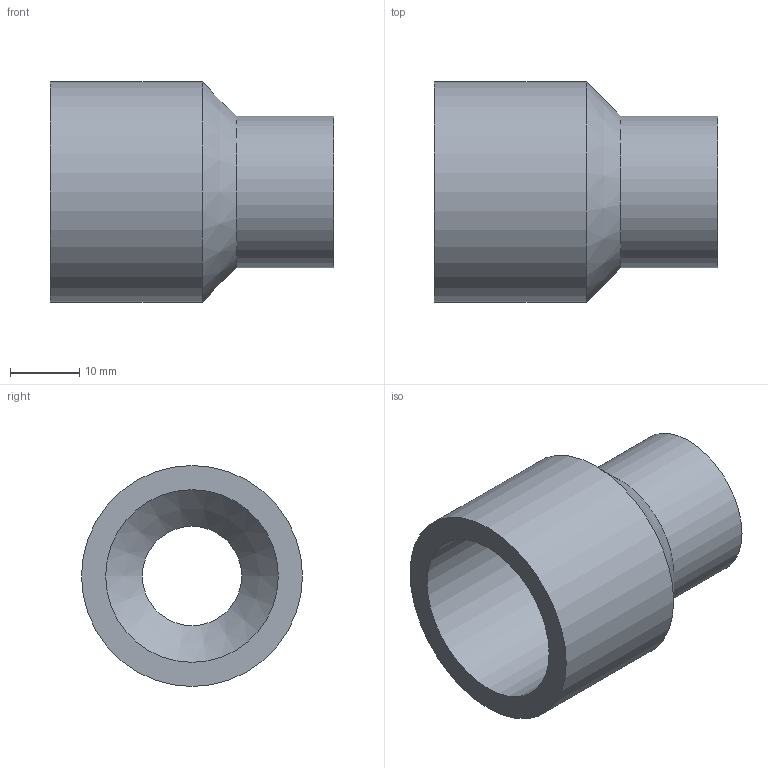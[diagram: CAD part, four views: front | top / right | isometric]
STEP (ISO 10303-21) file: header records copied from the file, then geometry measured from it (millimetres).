
FILE_DESCRIPTION(/* description */ ('PLASSON REDUCING SOCKET M.F.32(25)16 CEMENTED'),/* implementation_level */ '2;1');
FILE_NAME(/* name */ 'C:\Dropbox\KIMPROJECTS-Inventor\99-16-3568-Processing\PVC Catalog 2017\050200\050200032016.ipt.stp',/* time_stamp */ '2017-12-07T15:52:08+02:00',/* author */ ('KIM'),/* organization */ (''),/* preprocessor_version */ 'ST-DEVELOPER v15.6',/* originating_system */ 'Autodesk Inventor 2015',/* authorisation */ '');
FILE_SCHEMA (('AUTOMOTIVE_DESIGN { 1 0 10303 214 3 1 1 }'));
Length unit declared in the file: millimetre
Products named in the file (1): 050200032016
Bounding box: 41 x 32 x 32 mm (x, y, z)
Volume: 11675.2 mm3; surface area: 7091.7 mm2
Topology: 1 solids, 1 shells, 10 faces, 17 edges, 10 vertices
Faces by surface type: cylinder 5, plane 3, cone 2
Full cylindrical faces by diameter (mm): 14.4 x1, 16 x1, 22 x1, 25 x1, 32 x1
Entity records: 232 total; most frequent: DIRECTION 42, CARTESIAN_POINT 31, AXIS2_PLACEMENT_3D 21, EDGE_LOOP 20, ORIENTED_EDGE 20, FACE_BOUND 10, FACE_OUTER_BOUND 10, CIRCLE 10
